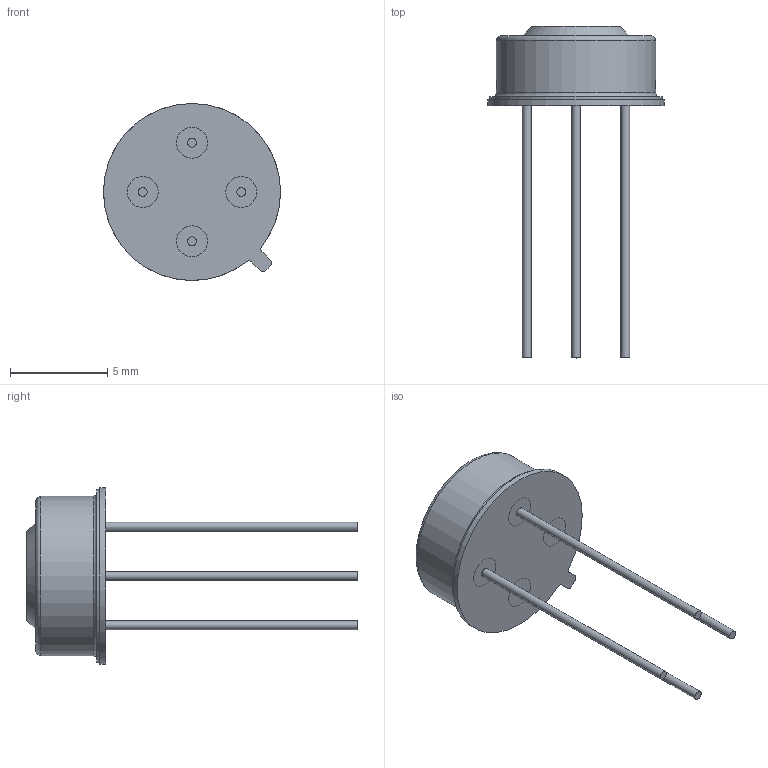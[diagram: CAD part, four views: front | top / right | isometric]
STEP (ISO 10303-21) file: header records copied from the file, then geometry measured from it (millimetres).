
FILE_DESCRIPTION(('CAx-IF Rec.Pracs.---Model Styling and Organization---1.5---2016-08-15','CAx-IF Rec.Pracs.---Geometric and Assembly Validation Properties---4.4---2016-08-17','CAx-IF Rec.Pracs.---User Defined Attributes---1.5---2016-08-15','CAx-IF Rec.Pracs.---External References---2.1---2005-01-19'),'2;1');
FILE_NAME('269139.step','2024-02-14T21:33:18',('Unspecified'),('Unspecified'),'CAD Exchanger 3.10.2 (cadexchanger.com)','Unspecified','');
FILE_SCHEMA(('AUTOMOTIVE_DESIGN { 1 0 10303 214 1 1 1 1 }'));
Length unit declared in the file: millimetre
Products named in the file (2): MLX90614ESF-BAA-000-TU
Bounding box: 9.12 x 17.1 x 9.12 mm (x, y, z)
Volume: 211.2 mm3; surface area: 373 mm2
Topology: 6 solids, 6 shells, 54 faces, 86 edges, 56 vertices
Faces by surface type: plane 28, cylinder 21, torus 4, cone 1
Full cylindrical faces by diameter (mm): 0.45 x4, 1.6 x8, 3.5 x2, 8.2 x1, 8.92 x1, 9.12 x1
Entity records: 1662 total; most frequent: CARTESIAN_POINT 238, DIRECTION 222, ORIENTED_EDGE 172, AXIS2_PLACEMENT_3D 104, EDGE_CURVE 86, FACE_BOUND 66, EDGE_LOOP 66, VERTEX_POINT 56
